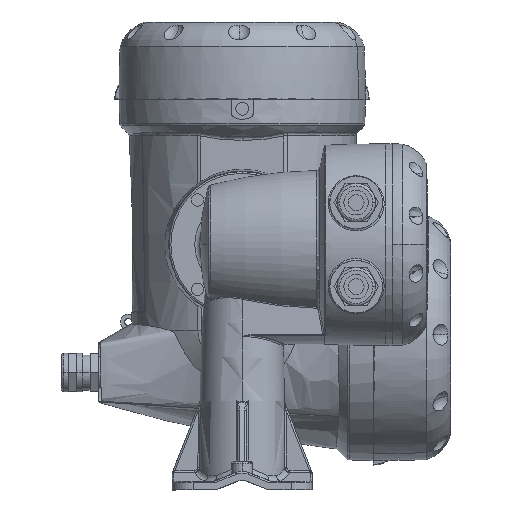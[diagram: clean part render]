
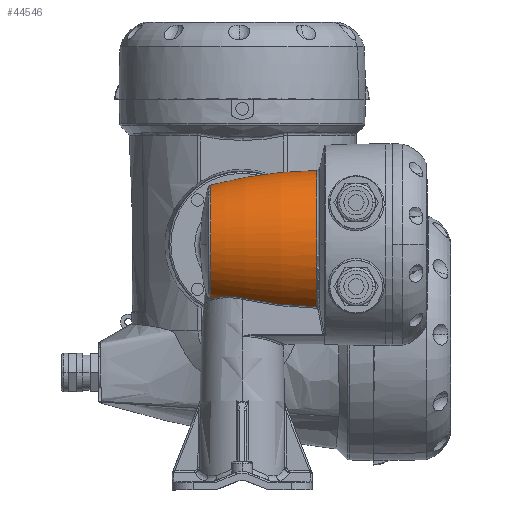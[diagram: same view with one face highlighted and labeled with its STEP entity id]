
A CAD part, front view. The second image highlights one B-rep face of the part: STEP entity #44546.
In plain terms, the highlighted toroidal (fillet/blend) face has major radius 207.682 mm and minor radius 250 mm.
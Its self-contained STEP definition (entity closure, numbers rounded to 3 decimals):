
#5395 = CARTESIAN_POINT ( 'NONE',  ( 42.429, 82.15, 0. ) ) ;
#5396 = DIRECTION ( 'NONE',  ( -1., 0., 0. ) ) ;
#5397 = DIRECTION ( 'NONE',  ( 0., 1., 0. ) ) ;
#6137 = CARTESIAN_POINT ( 'NONE',  ( 46., 82.15, 0. ) ) ;
#6139 = DIRECTION ( 'NONE',  ( 1., 0., 0. ) ) ;
#6141 = DIRECTION ( 'NONE',  ( 0., 0., 1. ) ) ;
#7612 = AXIS2_PLACEMENT_3D ( 'NONE', #6137, #6139, #6141 ) ;
#9438 = VERTEX_POINT ( 'NONE', #46702 ) ;
#9439 = VERTEX_POINT ( 'NONE', #46705 ) ;
#9619 = VERTEX_POINT ( 'NONE', #47125 ) ;
#9620 = VERTEX_POINT ( 'NONE', #47127 ) ;
#9621 = VERTEX_POINT ( 'NONE', #47130 ) ;
#39908 = EDGE_LOOP ( 'NONE', ( #97629, #97630, #97631, #97632, #97633 ) ) ;
#41138 = EDGE_CURVE ( 'NONE', #9438, #9439, #98685, .T. ) ;
#44232 = EDGE_CURVE ( 'NONE', #9438, #9619, #95839, .T. ) ;
#44235 = EDGE_CURVE ( 'NONE', #9619, #9620, #94214, .T. ) ;
#44237 = EDGE_CURVE ( 'NONE', #9620, #9621, #94215, .T. ) ;
#44240 = EDGE_CURVE ( 'NONE', #9621, #9439, #95840, .T. ) ;
#44546 = ADVANCED_FACE ( 'NONE', ( #96074 ), #96080, .T. ) ;
#46702 = CARTESIAN_POINT ( 'NONE',  ( -18.082, 82.15, 33.966 ) ) ;
#46705 = CARTESIAN_POINT ( 'NONE',  ( 42.429, 82.15, 42.293 ) ) ;
#47125 = CARTESIAN_POINT ( 'NONE',  ( -18.082, 67.833, -30.801 ) ) ;
#47127 = CARTESIAN_POINT ( 'NONE',  ( 0.183, 59.242, -30.424 ) ) ;
#47130 = CARTESIAN_POINT ( 'NONE',  ( 42.429, 59.004, -35.397 ) ) ;
#94214 = B_SPLINE_CURVE_WITH_KNOTS ( 'NONE', 3,
 ( #95599, #95600, #95601, #95602, #95603, #95604, #95605, #95606, #95607, #95608, #95609, #95610, #95611, #95612, #95613, #95614, #95615, #95616 ),
 .UNSPECIFIED., .F., .F.,
 ( 4, 2, 2, 2, 2, 2, 2, 2, 4 ),
 ( 0., 0.005, 0.007, 0.008, 0.01, 0.013, 0.014, 0.016, 0.021 ),
 .UNSPECIFIED. ) ;
#94215 = B_SPLINE_CURVE_WITH_KNOTS ( 'NONE', 3,
 ( #95617, #95618, #95619, #95620, #95621, #95622 ),
 .UNSPECIFIED., .F., .F.,
 ( 4, 2, 4 ),
 ( 0., 0.021, 0.043 ),
 .UNSPECIFIED. ) ;
#95596 = CARTESIAN_POINT ( 'NONE',  ( -18.082, 82.15, 0. ) ) ;
#95597 = DIRECTION ( 'NONE',  ( 1., 0., 0. ) ) ;
#95598 = DIRECTION ( 'NONE',  ( 0., 1., 0. ) ) ;
#95599 = CARTESIAN_POINT ( 'NONE',  ( -18.082, 67.833, -30.801 ) ) ;
#95600 = CARTESIAN_POINT ( 'NONE',  ( -16.97, 66.497, -30.505 ) ) ;
#95601 = CARTESIAN_POINT ( 'NONE',  ( -15.729, 65.308, -30.22 ) ) ;
#95602 = CARTESIAN_POINT ( 'NONE',  ( -14.017, 63.99, -29.93 ) ) ;
#95603 = CARTESIAN_POINT ( 'NONE',  ( -13.667, 63.736, -29.875 ) ) ;
#95604 = CARTESIAN_POINT ( 'NONE',  ( -12.949, 63.243, -29.774 ) ) ;
#95605 = CARTESIAN_POINT ( 'NONE',  ( -12.581, 63.005, -29.727 ) ) ;
#95606 = CARTESIAN_POINT ( 'NONE',  ( -11.458, 62.322, -29.603 ) ) ;
#95607 = CARTESIAN_POINT ( 'NONE',  ( -10.69, 61.911, -29.54 ) ) ;
#95608 = CARTESIAN_POINT ( 'NONE',  ( -9.118, 61.175, -29.466 ) ) ;
#95609 = CARTESIAN_POINT ( 'NONE',  ( -8.314, 60.849, -29.454 ) ) ;
#95610 = CARTESIAN_POINT ( 'NONE',  ( -7.079, 60.425, -29.478 ) ) ;
#95611 = CARTESIAN_POINT ( 'NONE',  ( -6.663, 60.295, -29.494 ) ) ;
#95612 = CARTESIAN_POINT ( 'NONE',  ( -5.821, 60.055, -29.54 ) ) ;
#95613 = CARTESIAN_POINT ( 'NONE',  ( -5.395, 59.946, -29.57 ) ) ;
#95614 = CARTESIAN_POINT ( 'NONE',  ( -3.255, 59.46, -29.762 ) ) ;
#95615 = CARTESIAN_POINT ( 'NONE',  ( -1.539, 59.261, -30.036 ) ) ;
#95616 = CARTESIAN_POINT ( 'NONE',  ( 0.183, 59.242, -30.424 ) ) ;
#95617 = CARTESIAN_POINT ( 'NONE',  ( 0.183, 59.242, -30.424 ) ) ;
#95618 = CARTESIAN_POINT ( 'NONE',  ( 7.137, 59.164, -31.988 ) ) ;
#95619 = CARTESIAN_POINT ( 'NONE',  ( 14.137, 59.108, -33.164 ) ) ;
#95620 = CARTESIAN_POINT ( 'NONE',  ( 28.221, 59.031, -34.81 ) ) ;
#95621 = CARTESIAN_POINT ( 'NONE',  ( 35.304, 59.01, -35.279 ) ) ;
#95622 = CARTESIAN_POINT ( 'NONE',  ( 42.429, 59.004, -35.397 ) ) ;
#95839 = CIRCLE ( 'NONE', #100797, 33.966 ) ;
#95840 = CIRCLE ( 'NONE', #100799, 42.293 ) ;
#96074 = FACE_OUTER_BOUND ( 'NONE', #39908, .T. ) ;
#96080 = TOROIDAL_SURFACE ( 'NONE', #7612, -207.682, 250. ) ;
#97629 = ORIENTED_EDGE ( 'NONE', *, *, #41138, .F. ) ;
#97630 = ORIENTED_EDGE ( 'NONE', *, *, #44232, .T. ) ;
#97631 = ORIENTED_EDGE ( 'NONE', *, *, #44235, .T. ) ;
#97632 = ORIENTED_EDGE ( 'NONE', *, *, #44237, .T. ) ;
#97633 = ORIENTED_EDGE ( 'NONE', *, *, #44240, .T. ) ;
#98685 = CIRCLE ( 'NONE', #100021, 250. ) ;
#100021 = AXIS2_PLACEMENT_3D ( 'NONE', #102267, #102269, #102270 ) ;
#100797 = AXIS2_PLACEMENT_3D ( 'NONE', #95596, #95597, #95598 ) ;
#100799 = AXIS2_PLACEMENT_3D ( 'NONE', #5395, #5396, #5397 ) ;
#102267 = CARTESIAN_POINT ( 'NONE',  ( 46., 82.15, -207.682 ) ) ;
#102269 = DIRECTION ( 'NONE',  ( 0., 1., 0. ) ) ;
#102270 = DIRECTION ( 'NONE',  ( -1., 0., 0. ) ) ;
